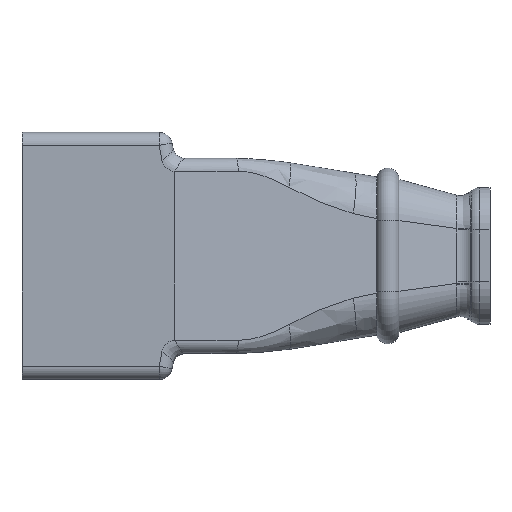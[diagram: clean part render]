
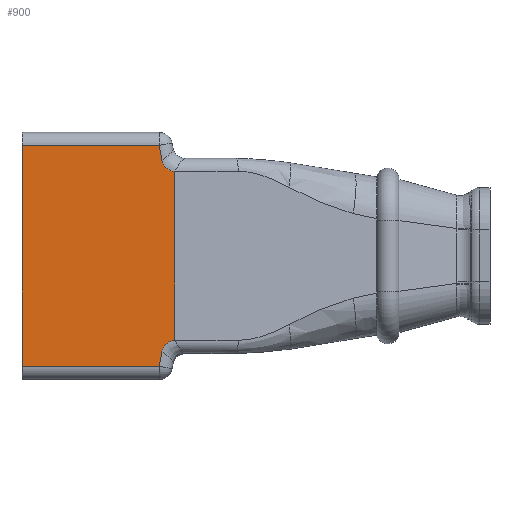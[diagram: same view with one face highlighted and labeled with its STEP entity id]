
A CAD part, top view. The second image highlights one B-rep face of the part: STEP entity #900.
In plain terms, the highlighted planar face has unit normal (0, 0, 1).
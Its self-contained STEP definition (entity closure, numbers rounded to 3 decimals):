
#10=CARTESIAN_POINT('',(27.518,25.663,92.5));
#20=DIRECTION('',(0.,0.,1.));
#30=DIRECTION('',(1.,0.,0.));
#40=AXIS2_PLACEMENT_3D('',#10,#20,#30);
#50=PLANE('',#40);
#60=CARTESIAN_POINT('',(29.116,7.,92.5));
#70=DIRECTION('',(-1.,0.,0.));
#80=VECTOR('',#70,1.);
#90=LINE('',#60,#80);
#100=CARTESIAN_POINT('',(29.116,7.,92.5));
#110=VERTEX_POINT('',#100);
#120=CARTESIAN_POINT('',(8.,7.,92.5));
#130=VERTEX_POINT('',#120);
#140=EDGE_CURVE('',#110,#130,#90,.T.);
#150=ORIENTED_EDGE('',*,*,#140,.F.);
#160=CARTESIAN_POINT('',(8.,41.,92.5));
#170=DIRECTION('',(0.,-1.,0.));
#180=VECTOR('',#170,1.);
#190=LINE('',#160,#180);
#200=CARTESIAN_POINT('',(8.,41.,92.5));
#210=VERTEX_POINT('',#200);
#220=EDGE_CURVE('',#210,#130,#190,.T.);
#230=ORIENTED_EDGE('',*,*,#220,.T.);
#240=CARTESIAN_POINT('',(8.,41.,92.5));
#250=DIRECTION('',(1.,0.,0.));
#260=VECTOR('',#250,1.);
#270=LINE('',#240,#260);
#280=CARTESIAN_POINT('',(29.116,41.,92.5));
#290=VERTEX_POINT('',#280);
#300=EDGE_CURVE('',#210,#290,#270,.T.);
#310=ORIENTED_EDGE('',*,*,#300,.F.);
#320=CARTESIAN_POINT('',(29.525,38.683,92.5));
#330=DIRECTION('',(-0.174,0.985,0.));
#340=VECTOR('',#330,1.);
#350=LINE('',#320,#340);
#360=CARTESIAN_POINT('',(29.525,38.683,92.5));
#370=VERTEX_POINT('',#360);
#380=EDGE_CURVE('',#370,#290,#350,.T.);
#390=ORIENTED_EDGE('',*,*,#380,.T.);
#400=CARTESIAN_POINT('',(31.5,37.,92.5));
#410=CARTESIAN_POINT('',(31.442,37.,92.5));
#420=CARTESIAN_POINT('',(31.326,37.006,92.5));
#430=CARTESIAN_POINT('',(31.097,37.04,92.5));
#440=CARTESIAN_POINT('',(30.819,37.123,92.5));
#450=CARTESIAN_POINT('',(30.505,37.28,92.5));
#460=CARTESIAN_POINT('',(30.219,37.487,92.5));
#470=CARTESIAN_POINT('',(29.969,37.738,92.5));
#480=CARTESIAN_POINT('',(29.763,38.025,92.5));
#490=CARTESIAN_POINT('',(29.609,38.341,92.5));
#500=CARTESIAN_POINT('',(29.545,38.567,92.5));
#510=CARTESIAN_POINT('',(29.525,38.683,92.5));
#520=B_SPLINE_CURVE_WITH_KNOTS('',3,(#400,#410,#420,#430,#440,#450,#460,
#470,#480,#490,#500,#510),.UNSPECIFIED.,.F.,.F.,(4,1,1,1,1,1,1,1,1,4),(
0.,0.062,0.125,
0.25,0.375,0.5,0.625,
0.75,0.875,1.),.UNSPECIFIED.);
#530=CARTESIAN_POINT('',(31.5,37.,92.5));
#540=VERTEX_POINT('',#530);
#550=EDGE_CURVE('',#540,#370,#520,.T.);
#560=ORIENTED_EDGE('',*,*,#550,.T.);
#570=CARTESIAN_POINT('',(31.5,37.,92.5));
#580=DIRECTION('',(0.,-1.,0.));
#590=VECTOR('',#580,1.);
#600=LINE('',#570,#590);
#610=CARTESIAN_POINT('',(31.5,11.,92.5));
#620=VERTEX_POINT('',#610);
#630=EDGE_CURVE('',#540,#620,#600,.T.);
#640=ORIENTED_EDGE('',*,*,#630,.F.);
#650=CARTESIAN_POINT('',(29.525,9.317,92.5));
#660=CARTESIAN_POINT('',(29.545,9.433,92.5));
#670=CARTESIAN_POINT('',(29.609,9.659,92.5));
#680=CARTESIAN_POINT('',(29.763,9.975,92.5));
#690=CARTESIAN_POINT('',(29.969,10.262,92.5));
#700=CARTESIAN_POINT('',(30.219,10.513,92.5));
#710=CARTESIAN_POINT('',(30.505,10.72,92.5));
#720=CARTESIAN_POINT('',(30.819,10.877,92.5));
#730=CARTESIAN_POINT('',(31.097,10.96,92.5));
#740=CARTESIAN_POINT('',(31.326,10.994,92.5));
#750=CARTESIAN_POINT('',(31.442,11.,92.5));
#760=CARTESIAN_POINT('',(31.5,11.,92.5));
#770=B_SPLINE_CURVE_WITH_KNOTS('',3,(#650,#660,#670,#680,#690,#700,#710,
#720,#730,#740,#750,#760),.UNSPECIFIED.,.F.,.F.,(4,1,1,1,1,1,1,1,1,4),(
0.,0.125,0.25,0.375,0.5,0.625,0.75,0.875,0.938,
1.),.UNSPECIFIED.);
#780=CARTESIAN_POINT('',(29.525,9.317,92.5));
#790=VERTEX_POINT('',#780);
#800=EDGE_CURVE('',#790,#620,#770,.T.);
#810=ORIENTED_EDGE('',*,*,#800,.T.);
#820=CARTESIAN_POINT('',(29.116,7.,92.5));
#830=DIRECTION('',(0.174,0.985,0.));
#840=VECTOR('',#830,1.);
#850=LINE('',#820,#840);
#860=EDGE_CURVE('',#110,#790,#850,.T.);
#870=ORIENTED_EDGE('',*,*,#860,.T.);
#880=EDGE_LOOP('',(#870,#810,#640,#560,#390,#310,#230,#150));
#890=FACE_OUTER_BOUND('',#880,.T.);
#900=ADVANCED_FACE('',(#890),#50,.T.);
